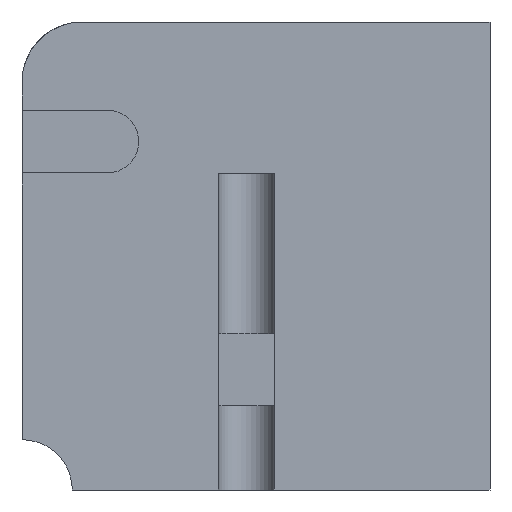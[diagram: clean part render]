
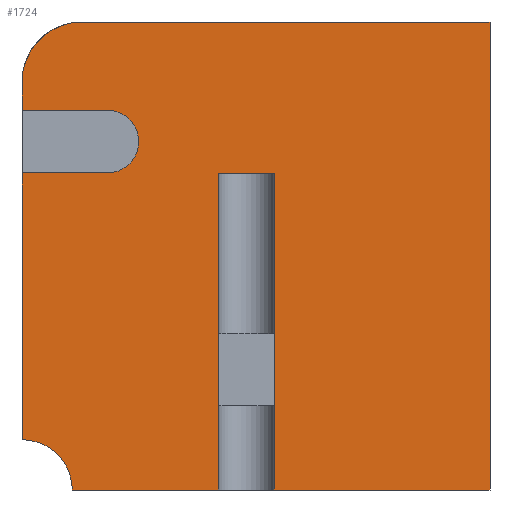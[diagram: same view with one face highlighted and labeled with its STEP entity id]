
A CAD part, front view. The second image highlights one B-rep face of the part: STEP entity #1724.
In plain terms, the highlighted planar face has unit normal (0, -1, 0).
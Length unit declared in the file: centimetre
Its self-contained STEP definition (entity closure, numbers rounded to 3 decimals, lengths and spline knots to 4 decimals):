
#12 = CARTESIAN_POINT ( 'NONE',  ( 0., 0., 1000. ) ) ;
#78 = VERTEX_POINT ( 'NONE', #145 ) ;
#115 = CIRCLE ( 'NONE', #1029, 67.1207 ) ;
#145 = CARTESIAN_POINT ( 'NONE',  ( 1000., 0., 0. ) ) ;
#187 = ORIENTED_EDGE ( 'NONE', *, *, #832, .T. ) ;
#188 = CARTESIAN_POINT ( 'NONE',  ( 539.1628, 0., 676.5773 ) ) ;
#193 = EDGE_CURVE ( 'NONE', #745, #78, #852, .T. ) ;
#200 = VECTOR ( 'NONE', #709, 100. ) ;
#216 = VERTEX_POINT ( 'NONE', #700 ) ;
#233 = VECTOR ( 'NONE', #409, 100. ) ;
#243 = CARTESIAN_POINT ( 'NONE',  ( 0., 0., 677.4171 ) ) ;
#248 = VECTOR ( 'NONE', #1332, 100. ) ;
#250 = AXIS2_PLACEMENT_3D ( 'NONE', #654, #1187, #777 ) ;
#269 = VERTEX_POINT ( 'NONE', #304 ) ;
#302 = DIRECTION ( 'NONE',  ( 0., 0., -1. ) ) ;
#304 = CARTESIAN_POINT ( 'NONE',  ( 419.3854, 0., 676.5773 ) ) ;
#348 = DIRECTION ( 'NONE',  ( 0., -1., 0. ) ) ;
#350 = CARTESIAN_POINT ( 'NONE',  ( 127.9179, 0., 1000. ) ) ;
#353 = CARTESIAN_POINT ( 'NONE',  ( 107.494, 0., 0. ) ) ;
#357 = EDGE_CURVE ( 'NONE', #840, #78, #1112, .T. ) ;
#361 = CIRCLE ( 'NONE', #250, 127.9179 ) ;
#365 = ORIENTED_EDGE ( 'NONE', *, *, #812, .F. ) ;
#386 = LINE ( 'NONE', #12, #248 ) ;
#387 = EDGE_CURVE ( 'NONE', #216, #646, #1271, .T. ) ;
#409 = DIRECTION ( 'NONE',  ( 1., 0., 0. ) ) ;
#413 = ORIENTED_EDGE ( 'NONE', *, *, #387, .F. ) ;
#442 = AXIS2_PLACEMENT_3D ( 'NONE', #597, #348, #1686 ) ;
#459 = DIRECTION ( 'NONE',  ( 0., 0., -1. ) ) ;
#479 = CARTESIAN_POINT ( 'NONE',  ( 182.1874, 0., 811.6586 ) ) ;
#506 = DIRECTION ( 'NONE',  ( 0., 0., -1. ) ) ;
#547 = CARTESIAN_POINT ( 'NONE',  ( 0., 0., 1000. ) ) ;
#591 = VECTOR ( 'NONE', #1581, 100. ) ;
#597 = CARTESIAN_POINT ( 'NONE',  ( 0., 0., 0. ) ) ;
#607 = EDGE_CURVE ( 'NONE', #1610, #772, #666, .T. ) ;
#613 = CARTESIAN_POINT ( 'NONE',  ( 0., 0., 0. ) ) ;
#619 = VERTEX_POINT ( 'NONE', #188 ) ;
#624 = LINE ( 'NONE', #1164, #591 ) ;
#646 = VERTEX_POINT ( 'NONE', #1389 ) ;
#652 = ORIENTED_EDGE ( 'NONE', *, *, #607, .F. ) ;
#654 = CARTESIAN_POINT ( 'NONE',  ( 127.9179, 0., 872.0821 ) ) ;
#657 = LINE ( 'NONE', #1065, #1284 ) ;
#666 = CIRCLE ( 'NONE', #442, 107.494 ) ;
#669 = CARTESIAN_POINT ( 'NONE',  ( 0., 0., 0. ) ) ;
#698 = CARTESIAN_POINT ( 'NONE',  ( 0., 0., 677.4171 ) ) ;
#699 = EDGE_CURVE ( 'NONE', #1044, #989, #361, .T. ) ;
#700 = CARTESIAN_POINT ( 'NONE',  ( 182.1874, 0., 811.6586 ) ) ;
#701 = DIRECTION ( 'NONE',  ( 0., 0., -1. ) ) ;
#709 = DIRECTION ( 'NONE',  ( 1., 0., 0. ) ) ;
#745 = VERTEX_POINT ( 'NONE', #1311 ) ;
#767 = EDGE_CURVE ( 'NONE', #1116, #216, #115, .T. ) ;
#772 = VERTEX_POINT ( 'NONE', #1043 ) ;
#777 = DIRECTION ( 'NONE',  ( 0., 0., 1. ) ) ;
#779 = ORIENTED_EDGE ( 'NONE', *, *, #193, .F. ) ;
#790 = DIRECTION ( 'NONE',  ( 0., 1., 0. ) ) ;
#797 = DIRECTION ( 'NONE',  ( 0., 0., 1. ) ) ;
#812 = EDGE_CURVE ( 'NONE', #619, #269, #1472, .T. ) ;
#832 = EDGE_CURVE ( 'NONE', #989, #646, #1095, .T. ) ;
#840 = VERTEX_POINT ( 'NONE', #1630 ) ;
#848 = LINE ( 'NONE', #1246, #1664 ) ;
#852 = LINE ( 'NONE', #1521, #1714 ) ;
#871 = ORIENTED_EDGE ( 'NONE', *, *, #1181, .F. ) ;
#879 = CARTESIAN_POINT ( 'NONE',  ( 0., 0., 872.0821 ) ) ;
#931 = AXIS2_PLACEMENT_3D ( 'NONE', #1477, #790, #797 ) ;
#939 = PLANE ( 'NONE',  #931 ) ;
#941 = CARTESIAN_POINT ( 'NONE',  ( 0., 0., 676.5773 ) ) ;
#942 = VERTEX_POINT ( 'NONE', #243 ) ;
#955 = ORIENTED_EDGE ( 'NONE', *, *, #699, .T. ) ;
#989 = VERTEX_POINT ( 'NONE', #879 ) ;
#1029 = AXIS2_PLACEMENT_3D ( 'NONE', #1325, #1331, #506 ) ;
#1033 = VERTEX_POINT ( 'NONE', #1445 ) ;
#1043 = CARTESIAN_POINT ( 'NONE',  ( 0., 0., 107.494 ) ) ;
#1044 = VERTEX_POINT ( 'NONE', #350 ) ;
#1051 = CARTESIAN_POINT ( 'NONE',  ( 182.1874, 0., 677.4171 ) ) ;
#1057 = LINE ( 'NONE', #669, #233 ) ;
#1065 = CARTESIAN_POINT ( 'NONE',  ( 419.3854, 0., 676.5773 ) ) ;
#1070 = ORIENTED_EDGE ( 'NONE', *, *, #1644, .T. ) ;
#1082 = ORIENTED_EDGE ( 'NONE', *, *, #1377, .F. ) ;
#1092 = LINE ( 'NONE', #698, #200 ) ;
#1095 = LINE ( 'NONE', #547, #1531 ) ;
#1112 = LINE ( 'NONE', #613, #1118 ) ;
#1116 = VERTEX_POINT ( 'NONE', #1051 ) ;
#1118 = VECTOR ( 'NONE', #1681, 100. ) ;
#1138 = ORIENTED_EDGE ( 'NONE', *, *, #767, .F. ) ;
#1152 = EDGE_CURVE ( 'NONE', #269, #1033, #657, .T. ) ;
#1156 = ORIENTED_EDGE ( 'NONE', *, *, #357, .T. ) ;
#1164 = CARTESIAN_POINT ( 'NONE',  ( 539.1628, 0., 676.5773 ) ) ;
#1181 = EDGE_CURVE ( 'NONE', #1044, #745, #386, .T. ) ;
#1187 = DIRECTION ( 'NONE',  ( 0., -1., 0. ) ) ;
#1195 = EDGE_CURVE ( 'NONE', #1610, #1033, #1057, .T. ) ;
#1246 = CARTESIAN_POINT ( 'NONE',  ( 0., 0., 1000. ) ) ;
#1271 = LINE ( 'NONE', #479, #1334 ) ;
#1284 = VECTOR ( 'NONE', #1606, 100. ) ;
#1311 = CARTESIAN_POINT ( 'NONE',  ( 1000., 0., 1000. ) ) ;
#1325 = CARTESIAN_POINT ( 'NONE',  ( 182.1874, 0., 744.5378 ) ) ;
#1331 = DIRECTION ( 'NONE',  ( 0., -1., 0. ) ) ;
#1332 = DIRECTION ( 'NONE',  ( 1., 0., 0. ) ) ;
#1334 = VECTOR ( 'NONE', #1552, 100. ) ;
#1352 = ORIENTED_EDGE ( 'NONE', *, *, #1152, .F. ) ;
#1377 = EDGE_CURVE ( 'NONE', #942, #1116, #1092, .T. ) ;
#1389 = CARTESIAN_POINT ( 'NONE',  ( 0., 0., 811.6586 ) ) ;
#1437 = EDGE_CURVE ( 'NONE', #942, #772, #848, .T. ) ;
#1439 = VECTOR ( 'NONE', #1648, 100. ) ;
#1445 = CARTESIAN_POINT ( 'NONE',  ( 419.3854, 0., 0. ) ) ;
#1463 = FACE_OUTER_BOUND ( 'NONE', #1471, .T. ) ;
#1471 = EDGE_LOOP ( 'NONE', ( #187, #413, #1138, #1082, #1650, #652, #1478, #1352, #365, #1070, #1156, #779, #871, #955 ) ) ;
#1472 = LINE ( 'NONE', #941, #1439 ) ;
#1477 = CARTESIAN_POINT ( 'NONE',  ( 0., 0., 1000. ) ) ;
#1478 = ORIENTED_EDGE ( 'NONE', *, *, #1195, .T. ) ;
#1521 = CARTESIAN_POINT ( 'NONE',  ( 1000., 0., 1000. ) ) ;
#1531 = VECTOR ( 'NONE', #701, 100. ) ;
#1552 = DIRECTION ( 'NONE',  ( -1., 0., 0. ) ) ;
#1581 = DIRECTION ( 'NONE',  ( 0., 0., -1. ) ) ;
#1606 = DIRECTION ( 'NONE',  ( 0., 0., -1. ) ) ;
#1610 = VERTEX_POINT ( 'NONE', #353 ) ;
#1630 = CARTESIAN_POINT ( 'NONE',  ( 539.1628, 0., 0. ) ) ;
#1644 = EDGE_CURVE ( 'NONE', #619, #840, #624, .T. ) ;
#1648 = DIRECTION ( 'NONE',  ( -1., 0., 0. ) ) ;
#1650 = ORIENTED_EDGE ( 'NONE', *, *, #1437, .T. ) ;
#1664 = VECTOR ( 'NONE', #459, 100. ) ;
#1681 = DIRECTION ( 'NONE',  ( 1., 0., 0. ) ) ;
#1686 = DIRECTION ( 'NONE',  ( 0., 0., -1. ) ) ;
#1714 = VECTOR ( 'NONE', #302, 100. ) ;
#1724 = ADVANCED_FACE ( 'NONE', ( #1463 ), #939, .F. ) ;
